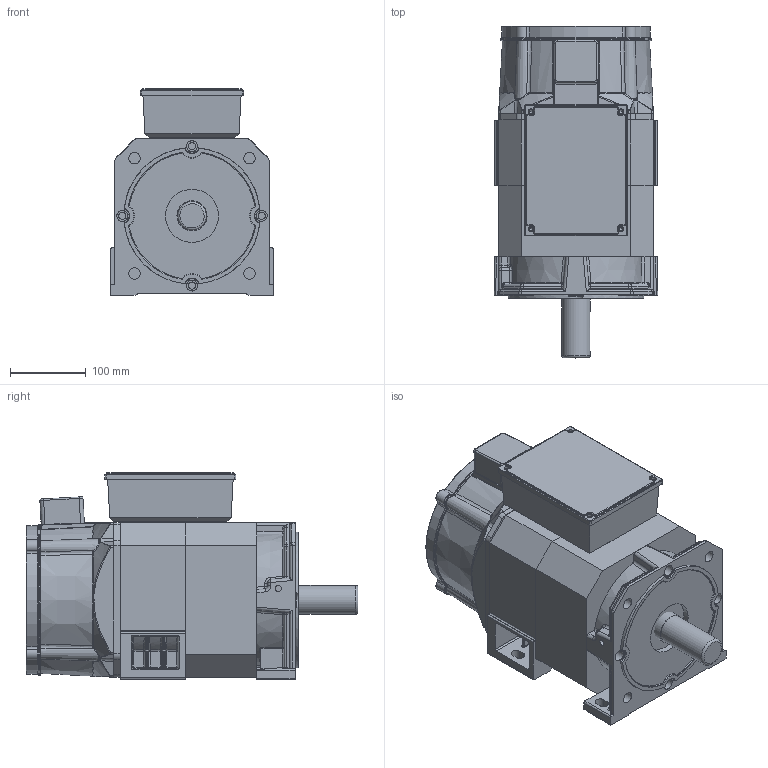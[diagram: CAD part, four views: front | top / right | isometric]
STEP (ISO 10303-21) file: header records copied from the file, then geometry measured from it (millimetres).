
FILE_DESCRIPTION(/* description */ (''),/* implementation_level */ '2;1');
FILE_NAME(/* name */ '204ZJY-4-2.2-15.stp',/* time_stamp */ '2024-01-15T15:28:09+08:00',/* author */ (''),/* organization */ (''),/* preprocessor_version */ 'ST-DEVELOPER v18.1',/* originating_system */ 'SIEMENS PLM Software NX 2000',/* authorisation */ '');
FILE_SCHEMA (('AUTOMOTIVE_DESIGN { 1 0 10303 214 3 1 1 1 }'));
Products named in the file (1): 204ZJY-4-3.7-15电机外形图(立卧通用)
Bounding box: 215.99 x 438 x 273 mm (x, y, z)
Volume: 13994816.4 mm3; surface area: 837162 mm2
Topology: 8 solids, 8 shells, 1690 faces, 4112 edges, 2368 vertices
Faces by surface type: cylinder 624, torus 449, plane 300, bspline 223, cone 52, sphere 42
Full cylindrical faces by diameter (mm): 4 x1, 5 x4, 6 x5, 7 x8, 7.5 x4, 8 x2, 9.5 x8, 11 x8, 13.5 x4, 14.5 x4, 15 x4, 38 x1, 39.8 x1, 70 x1, 187 x1
Entity records: 54994 total; most frequent: CARTESIAN_POINT 20005, ORIENTED_EDGE 7824, DIRECTION 6365, EDGE_CURVE 3912, AXIS2_PLACEMENT_3D 2678, VERTEX_POINT 2325, EDGE_LOOP 1861, ADVANCED_FACE 1690
